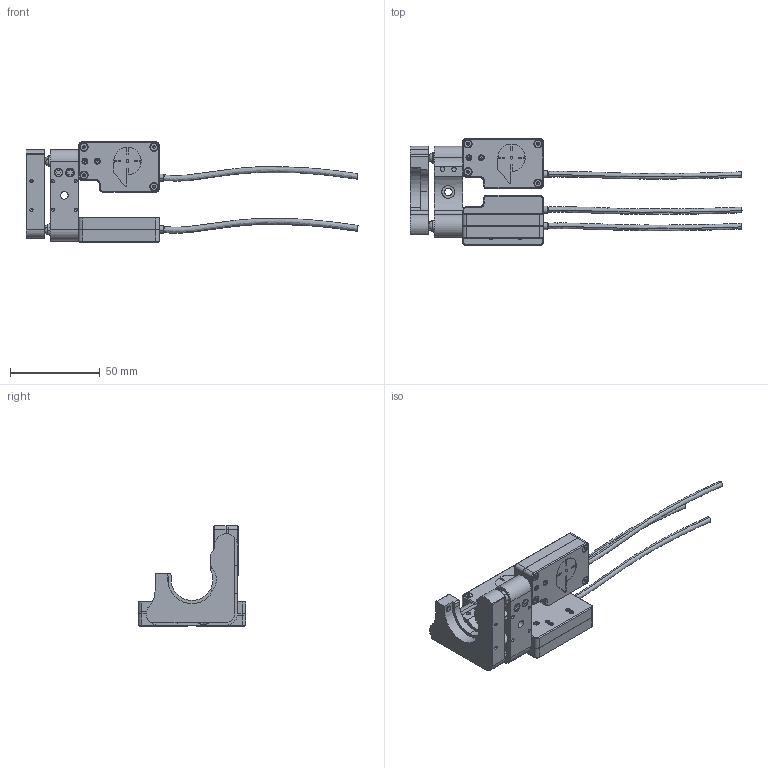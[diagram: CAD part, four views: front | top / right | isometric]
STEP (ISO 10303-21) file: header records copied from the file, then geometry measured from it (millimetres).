
FILE_DESCRIPTION (( 'STEP AP214' ), '1' );
FILE_NAME ('LinAct_2.STEP', '2021-04-29T09:44:35', ( '' ), ( '' ), 'SwSTEP 2.0', 'SolidWorks 2016', '' );
FILE_SCHEMA (( 'AUTOMOTIVE_DESIGN' ));
Length unit declared in the file: millimetre
Products named in the file (12): Bottom; Top; LinAct_2; SNZS_M2_3; Balltip; GSM_0608_08_1; Frontadaptor_2; Cable; Piston; SNZS_M1_6_6; CSHCS-ST-M2-10_CSHCS-ST-M2-10; U100-A-LH
Assembly tree (58 placements, depth 2):
  LinAct_2
    GSM_0608_08_1  x3
    Piston  x3
    Bottom  x3
    Top  x3
    Balltip  x3
    Cable  x3
    SNZS_M1_6_6  x12
    Frontadaptor_2  x3
    CSHCS-ST-M2-10_CSHCS-ST-M2-10  x12
    SNZS_M2_3  x12
    U100-A-LH
Bounding box: 184.87 x 59.7 x 55.9 mm (x, y, z)
Volume: 53055.9 mm3; surface area: 51661.1 mm2
Topology: 58 solids, 58 shells, 2506 faces, 5791 edges, 3465 vertices
Faces by surface type: plane 1336, cylinder 699, cone 352, torus 104, sphere 9, bspline 6
Entity records: 25283 total; most frequent: CARTESIAN_POINT 5441, DIRECTION 4011, ORIENTED_EDGE 3676, EDGE_CURVE 1838, AXIS2_PLACEMENT_3D 1499, VERTEX_POINT 1169, LINE 1013, VECTOR 1013
